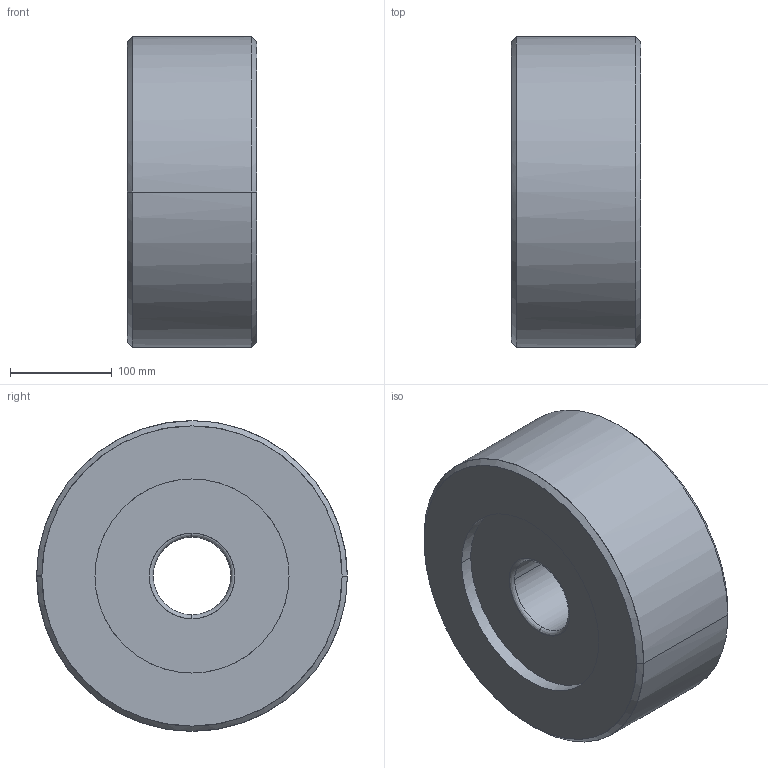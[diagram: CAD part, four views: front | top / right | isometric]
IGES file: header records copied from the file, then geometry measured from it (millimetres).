
Global section: native system: Kubotek KeyCreator; preprocessor: KCM Version 1.1.1442.0; author: KeyCreator User; organization: Self; date: 20170713.024249; units: inch
Bounding box: 127 x 304.8 x 304.8 mm (x, y, z)
Surface area: 291502.8 mm2 (no closed solid volume)
Topology: 0 solids, 0 shells, 20 faces, 128 edges, 128 vertices
Faces by surface type: bspline 20
